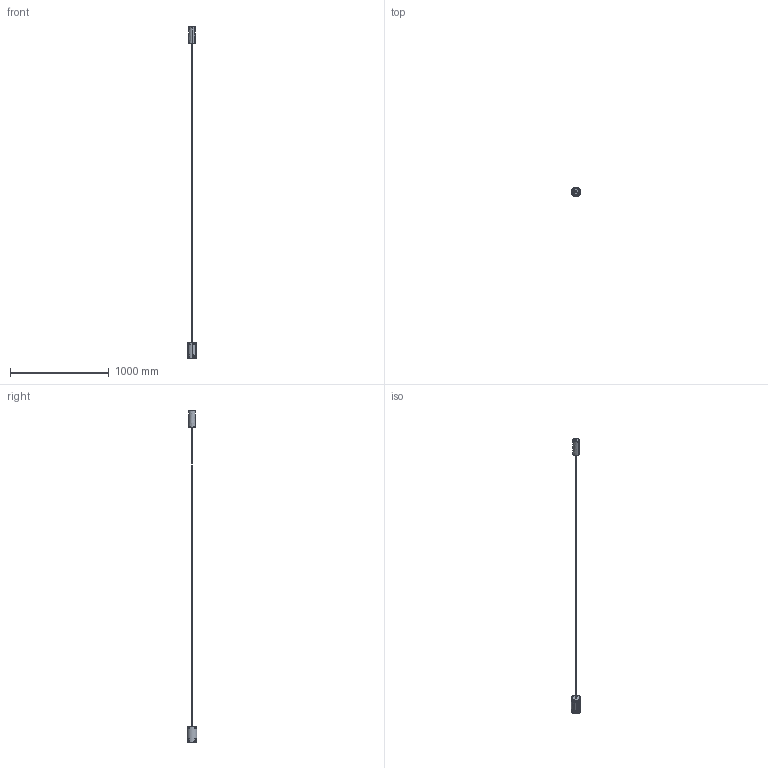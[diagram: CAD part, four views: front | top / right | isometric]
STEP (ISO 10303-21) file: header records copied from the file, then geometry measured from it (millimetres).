
FILE_DESCRIPTION(/* description */ (''),/* implementation_level */ '2;1');
FILE_NAME(/* name */ '432 Ways L127__.010',/* time_stamp */ '2025-05-27T14:02:17+02:00',/* author */ (''),/* organization */ (''),/* preprocessor_version */ 'ST-DEVELOPER v16.5',/* originating_system */ '',/* authorisation */ '');
FILE_SCHEMA (('AUTOMOTIVE_DESIGN'));
Length unit declared in the file: millimetre
Products named in the file (10): Document; 3200.0859000.00 (piattello di chiusura ACC sp 1,2)_3201.0859010.00; 3300.0487000.00 (testata di chiusura cilindrica ALL con filetto ester
no)_3307.0487010.00; 3100.0106000.00 (lente semisferica PC)_3100.0106008.00; 3300.0530000.00 (tubo rosone ALL Ø 65mm sp 2)_3306.0530017.00; 4504.0004000.00 (passacavo D int. 5,9mm L 10,5mm Steab 5101)_4504.000
4000.00; 5205.0001010.00 (raccordo fresato OTTONE D 12mm sp 3 gambo H 10mm M10
x1 Sacla 13501)_5205.0001010.00; 3200.0877000.00 (staffa rosone ACC Ø 60,7mm H 160,7mm sp 1,2)_321
0.0877001.00 - in opera 1; 3200.0876000.00 (testata rosone ACC Ø 60,7mm sp 1,2)_3201.0876000.
00; 3200.0875000.00 (staffa rosone ACC 60x55,8x161,7mm sp 1,2)_3209.08750
16.00 - in opera 1
Assembly tree (9 placements, depth 3):
  Document
    3200.0859000.00 (piattello di chiusura ACC sp 1,2)_3201.0859010.00
    3300.0487000.00 (testata di chiusura cilindrica ALL con filetto ester
no)_3307.0487010.00
    3100.0106000.00 (lente semisferica PC)_3100.0106008.00
    3300.0530000.00 (tubo rosone ALL Ø 65mm sp 2)_3306.0530017.00
    4504.0004000.00 (passacavo D int. 5,9mm L 10,5mm Steab 5101)_4504.000
4000.00
    5205.0001010.00 (raccordo fresato OTTONE D 12mm sp 3 gambo H 10mm M10
x1 Sacla 13501)_5205.0001010.00
    3200.0877000.00 (staffa rosone ACC Ø 60,7mm H 160,7mm sp 1,2)_321
0.0877001.00 - in opera 1
      3200.0876000.00 (testata rosone ACC Ø 60,7mm sp 1,2)_3201.0876000.
00
      3200.0875000.00 (staffa rosone ACC 60x55,8x161,7mm sp 1,2)_3209.08750
16.00 - in opera 1
Bounding box: 100 x 100 x 3364.9 mm (x, y, z)
Volume: 451300.2 mm3; surface area: 408072.3 mm2
Topology: 12 solids, 12 shells, 742 faces, 1993 edges, 1274 vertices
Faces by surface type: bspline 439, plane 303
Entity records: 52180 total; most frequent: CARTESIAN_POINT 40191, ORIENTED_EDGE 3970, EDGE_CURVE 1985, VERTEX_POINT 1274, B_SPLINE_CURVE_WITH_KNOTS 1169, EDGE_LOOP 803, ADVANCED_FACE 742, FACE_OUTER_BOUND 742
